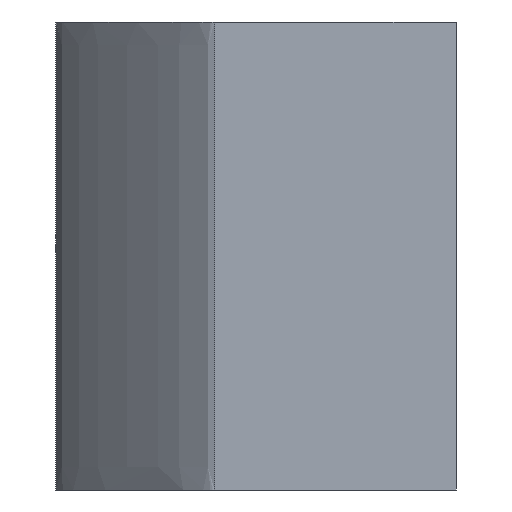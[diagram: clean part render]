
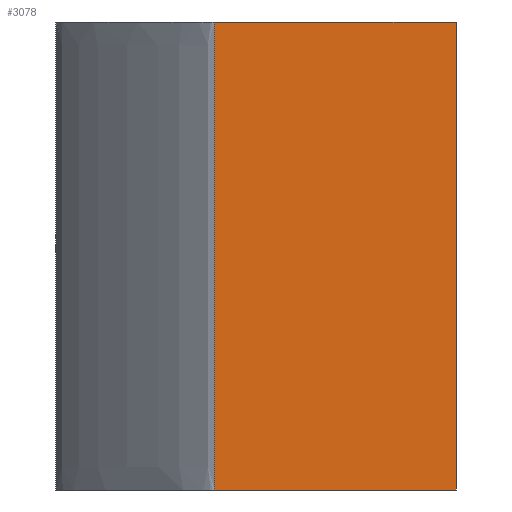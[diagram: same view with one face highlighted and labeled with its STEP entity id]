
A CAD part, front view. The second image highlights one B-rep face of the part: STEP entity #3078.
In plain terms, the highlighted planar face has unit normal (0, -1, 0).
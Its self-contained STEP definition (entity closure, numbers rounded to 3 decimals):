
#364=CARTESIAN_POINT('',(191.072,-24.65,-82.5));
#366=DIRECTION('',(1.,0.,0.));
#367=VECTOR('',#366,21.428);
#368=CARTESIAN_POINT('',(191.072,-24.65,-82.5));
#369=LINE('',#368,#367);
#1033=DIRECTION('',(0.,0.,-1.));
#1034=VECTOR('',#1033,41.5);
#1035=CARTESIAN_POINT('',(212.5,-24.65,-41.));
#1036=LINE('',#1035,#1034);
#1037=DIRECTION('',(1.,0.,0.));
#1038=VECTOR('',#1037,21.428);
#1039=CARTESIAN_POINT('',(191.072,-24.65,-41.));
#1040=LINE('',#1039,#1038);
#1045=DIRECTION('',(0.,0.,-1.));
#1046=VECTOR('',#1045,41.5);
#1047=CARTESIAN_POINT('',(191.072,-24.65,-41.));
#1048=LINE('',#1047,#1046);
#1528=CARTESIAN_POINT('',(212.5,-24.65,-82.5));
#1530=VERTEX_POINT('',#1528);
#1545=VERTEX_POINT('',#364);
#1552=CARTESIAN_POINT('',(212.5,-24.65,-41.));
#1553=VERTEX_POINT('',#1552);
#1650=CARTESIAN_POINT('',(191.072,-24.65,-41.));
#1651=VERTEX_POINT('',#1650);
#3066=CARTESIAN_POINT('',(213.,-24.65,-82.502));
#3067=DIRECTION('',(0.,-1.,0.));
#3068=DIRECTION('',(1.,0.,0.));
#3069=AXIS2_PLACEMENT_3D('',#3066,#3067,#3068);
#3070=PLANE('',#3069);
#3071=ORIENTED_EDGE('',*,*,#2195,.T.);
#3072=ORIENTED_EDGE('',*,*,#2178,.F.);
#3074=ORIENTED_EDGE('',*,*,#3073,.F.);
#3075=ORIENTED_EDGE('',*,*,#3041,.T.);
#3076=EDGE_LOOP('',(#3071,#3072,#3074,#3075));
#3077=FACE_OUTER_BOUND('',#3076,.F.);
#3078=ADVANCED_FACE('',(#3077),#3070,.T.);
#2178=EDGE_CURVE('',#1545,#1530,#369,.T.);
#2195=EDGE_CURVE('',#1553,#1530,#1036,.T.);
#3041=EDGE_CURVE('',#1651,#1553,#1040,.T.);
#3073=EDGE_CURVE('',#1651,#1545,#1048,.T.);
